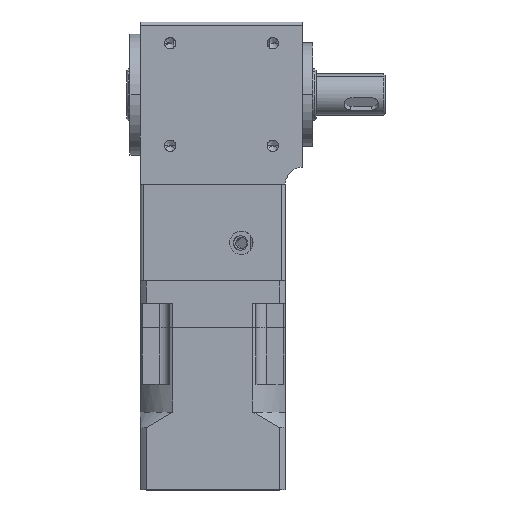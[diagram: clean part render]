
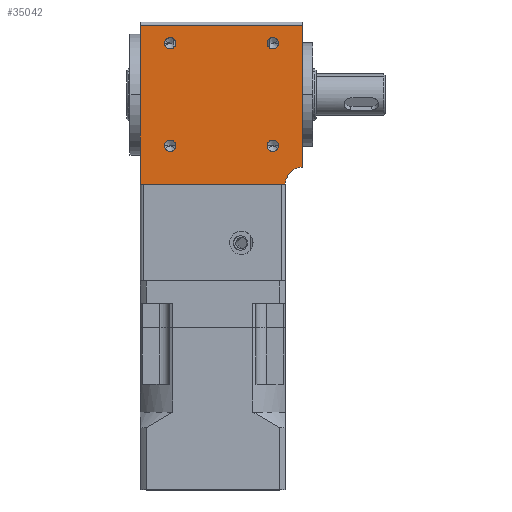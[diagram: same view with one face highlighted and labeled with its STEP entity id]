
A CAD part, top view. The second image highlights one B-rep face of the part: STEP entity #35042.
In plain terms, the highlighted planar face has unit normal (0, 0, 1).
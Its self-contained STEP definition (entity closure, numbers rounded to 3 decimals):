
#361 = EDGE_LOOP ( 'NONE', ( #29926, #30816 ) ) ;
#1298 = AXIS2_PLACEMENT_3D ( 'NONE', #14192, #33160, #16875 ) ;
#1678 = EDGE_CURVE ( 'NONE', #23293, #12936, #32965, .T. ) ;
#1953 = CARTESIAN_POINT ( 'NONE',  ( 11.651, 17.349, 21. ) ) ;
#2041 = DIRECTION ( 'NONE',  ( 0., 0., 1. ) ) ;
#2173 = DIRECTION ( 'NONE',  ( -1., 0., 0. ) ) ;
#2192 = AXIS2_PLACEMENT_3D ( 'NONE', #25916, #9663, #28671 ) ;
#2917 = ORIENTED_EDGE ( 'NONE', *, *, #21581, .F. ) ;
#3089 = VERTEX_POINT ( 'NONE', #10446 ) ;
#3150 = ORIENTED_EDGE ( 'NONE', *, *, #9135, .F. ) ;
#3172 = AXIS2_PLACEMENT_3D ( 'NONE', #24323, #8100, #27075 ) ;
#3533 = VERTEX_POINT ( 'NONE', #28079 ) ;
#4299 = VECTOR ( 'NONE', #14885, 1000. ) ;
#4657 = DIRECTION ( 'NONE',  ( 1., 0., 0. ) ) ;
#4767 = VERTEX_POINT ( 'NONE', #6992 ) ;
#4892 = LINE ( 'NONE', #33872, #12067 ) ;
#4995 = CARTESIAN_POINT ( 'NONE',  ( 50., -23.5, 21. ) ) ;
#5218 = EDGE_CURVE ( 'NONE', #6126, #14493, #15873, .T. ) ;
#5503 = VERTEX_POINT ( 'NONE', #27198 ) ;
#5556 = CIRCLE ( 'NONE', #1298, 1.65 ) ;
#5957 = ORIENTED_EDGE ( 'NONE', *, *, #8240, .F. ) ;
#6029 = VERTEX_POINT ( 'NONE', #6058 ) ;
#6058 = CARTESIAN_POINT ( 'NONE',  ( 10.001, 17.349, 21. ) ) ;
#6126 = VERTEX_POINT ( 'NONE', #22751 ) ;
#6430 = CIRCLE ( 'NONE', #29951, 1.65 ) ;
#6767 = FACE_BOUND ( 'NONE', #29595, .T. ) ;
#6992 = CARTESIAN_POINT ( 'NONE',  ( 3., -23.5, 21. ) ) ;
#7800 = EDGE_CURVE ( 'NONE', #20896, #3533, #6430, .T. ) ;
#8038 = CARTESIAN_POINT ( 'NONE',  ( 41.349, 17.349, 21. ) ) ;
#8100 = DIRECTION ( 'NONE',  ( 0., 0., 1. ) ) ;
#8129 = EDGE_CURVE ( 'NONE', #14493, #4767, #33140, .T. ) ;
#8240 = EDGE_CURVE ( 'NONE', #31089, #6029, #30612, .T. ) ;
#8332 = CARTESIAN_POINT ( 'NONE',  ( 41.349, -12.349, 21. ) ) ;
#8973 = CARTESIAN_POINT ( 'NONE',  ( 42.999, -12.349, 21. ) ) ;
#9135 = EDGE_CURVE ( 'NONE', #3533, #20896, #32636, .T. ) ;
#9663 = DIRECTION ( 'NONE',  ( 0., 0., 1. ) ) ;
#9731 = EDGE_LOOP ( 'NONE', ( #26414, #24795, #27964, #20636, #25717 ) ) ;
#9773 = VERTEX_POINT ( 'NONE', #11220 ) ;
#10446 = CARTESIAN_POINT ( 'NONE',  ( 13.301, -12.349, 21. ) ) ;
#11028 = DIRECTION ( 'NONE',  ( 1., 0., 0. ) ) ;
#11215 = DIRECTION ( 'NONE',  ( 0., 0., 1. ) ) ;
#11220 = CARTESIAN_POINT ( 'NONE',  ( 10.001, -12.349, 21. ) ) ;
#11981 = AXIS2_PLACEMENT_3D ( 'NONE', #8332, #27310, #11028 ) ;
#12067 = VECTOR ( 'NONE', #14888, 1000. ) ;
#12259 = EDGE_CURVE ( 'NONE', #6029, #31089, #23566, .T. ) ;
#12551 = DIRECTION ( 'NONE',  ( 0., 0., 1. ) ) ;
#12936 = VERTEX_POINT ( 'NONE', #31708 ) ;
#12939 = PLANE ( 'NONE',  #27670 ) ;
#13969 = FACE_BOUND ( 'NONE', #361, .T. ) ;
#14009 = AXIS2_PLACEMENT_3D ( 'NONE', #27491, #11215, #30242 ) ;
#14126 = DIRECTION ( 'NONE',  ( 0., 0., 1. ) ) ;
#14192 = CARTESIAN_POINT ( 'NONE',  ( 11.651, -12.349, 21. ) ) ;
#14282 = EDGE_LOOP ( 'NONE', ( #16573, #3150 ) ) ;
#14493 = VERTEX_POINT ( 'NONE', #23462 ) ;
#14885 = DIRECTION ( 'NONE',  ( -1., 0., 0. ) ) ;
#14888 = DIRECTION ( 'NONE',  ( -1., 0., 0. ) ) ;
#15186 = EDGE_CURVE ( 'NONE', #4767, #34309, #21703, .T. ) ;
#15873 = CIRCLE ( 'NONE', #2192, 5. ) ;
#16573 = ORIENTED_EDGE ( 'NONE', *, *, #7800, .F. ) ;
#16858 = DIRECTION ( 'NONE',  ( 0., 1., 0. ) ) ;
#16875 = DIRECTION ( 'NONE',  ( 1., 0., 0. ) ) ;
#18226 = ORIENTED_EDGE ( 'NONE', *, *, #12259, .F. ) ;
#18230 = CARTESIAN_POINT ( 'NONE',  ( 41.349, -12.349, 21. ) ) ;
#18390 = DIRECTION ( 'NONE',  ( 0., 0., -1. ) ) ;
#19331 = AXIS2_PLACEMENT_3D ( 'NONE', #8038, #12551, #23574 ) ;
#19460 = LINE ( 'NONE', #4995, #26703 ) ;
#20208 = EDGE_CURVE ( 'NONE', #3089, #9773, #33010, .T. ) ;
#20316 = FACE_OUTER_BOUND ( 'NONE', #9731, .T. ) ;
#20636 = ORIENTED_EDGE ( 'NONE', *, *, #8129, .F. ) ;
#20875 = DIRECTION ( 'NONE',  ( 0., 0., 1. ) ) ;
#20896 = VERTEX_POINT ( 'NONE', #8973 ) ;
#20961 = DIRECTION ( 'NONE',  ( 1., 0., 0. ) ) ;
#21400 = CARTESIAN_POINT ( 'NONE',  ( 39.699, 17.349, 21. ) ) ;
#21581 = EDGE_CURVE ( 'NONE', #12936, #23293, #32134, .T. ) ;
#21703 = LINE ( 'NONE', #33145, #28126 ) ;
#22751 = CARTESIAN_POINT ( 'NONE',  ( 50., -18.5, 21. ) ) ;
#23059 = EDGE_CURVE ( 'NONE', #5503, #34309, #4892, .T. ) ;
#23293 = VERTEX_POINT ( 'NONE', #21400 ) ;
#23462 = CARTESIAN_POINT ( 'NONE',  ( 45., -23.5, 21. ) ) ;
#23566 = CIRCLE ( 'NONE', #33189, 1.65 ) ;
#23574 = DIRECTION ( 'NONE',  ( 1., 0., 0. ) ) ;
#23951 = DIRECTION ( 'NONE',  ( 0., -1., 0. ) ) ;
#24323 = CARTESIAN_POINT ( 'NONE',  ( 41.349, 17.349, 21. ) ) ;
#24795 = ORIENTED_EDGE ( 'NONE', *, *, #23059, .T. ) ;
#25713 = CARTESIAN_POINT ( 'NONE',  ( 53., -23.5, 21. ) ) ;
#25717 = ORIENTED_EDGE ( 'NONE', *, *, #5218, .F. ) ;
#25870 = EDGE_LOOP ( 'NONE', ( #5957, #18226 ) ) ;
#25916 = CARTESIAN_POINT ( 'NONE',  ( 50., -23.5, 21. ) ) ;
#26414 = ORIENTED_EDGE ( 'NONE', *, *, #35070, .F. ) ;
#26461 = CARTESIAN_POINT ( 'NONE',  ( 53., -23.5, 21. ) ) ;
#26703 = VECTOR ( 'NONE', #23951, 1000. ) ;
#27075 = DIRECTION ( 'NONE',  ( 1., 0., 0. ) ) ;
#27198 = CARTESIAN_POINT ( 'NONE',  ( 50., 22.5, 21. ) ) ;
#27310 = DIRECTION ( 'NONE',  ( 0., 0., 1. ) ) ;
#27491 = CARTESIAN_POINT ( 'NONE',  ( 11.651, 17.349, 21. ) ) ;
#27556 = FACE_BOUND ( 'NONE', #14282, .T. ) ;
#27670 = AXIS2_PLACEMENT_3D ( 'NONE', #26461, #18390, #2173 ) ;
#27964 = ORIENTED_EDGE ( 'NONE', *, *, #15186, .F. ) ;
#28079 = CARTESIAN_POINT ( 'NONE',  ( 39.699, -12.349, 21. ) ) ;
#28126 = VECTOR ( 'NONE', #16858, 1000. ) ;
#28372 = AXIS2_PLACEMENT_3D ( 'NONE', #30402, #14126, #33093 ) ;
#28671 = DIRECTION ( 'NONE',  ( 1., 0., 0. ) ) ;
#29595 = EDGE_LOOP ( 'NONE', ( #2917, #34447 ) ) ;
#29926 = ORIENTED_EDGE ( 'NONE', *, *, #20208, .F. ) ;
#29951 = AXIS2_PLACEMENT_3D ( 'NONE', #18230, #2041, #20961 ) ;
#30242 = DIRECTION ( 'NONE',  ( 1., 0., 0. ) ) ;
#30402 = CARTESIAN_POINT ( 'NONE',  ( 11.651, -12.349, 21. ) ) ;
#30612 = CIRCLE ( 'NONE', #14009, 1.65 ) ;
#30816 = ORIENTED_EDGE ( 'NONE', *, *, #33419, .F. ) ;
#31089 = VERTEX_POINT ( 'NONE', #33024 ) ;
#31156 = CARTESIAN_POINT ( 'NONE',  ( 3., 22.5, 21. ) ) ;
#31708 = CARTESIAN_POINT ( 'NONE',  ( 42.999, 17.349, 21. ) ) ;
#32134 = CIRCLE ( 'NONE', #3172, 1.65 ) ;
#32636 = CIRCLE ( 'NONE', #11981, 1.65 ) ;
#32965 = CIRCLE ( 'NONE', #19331, 1.65 ) ;
#33010 = CIRCLE ( 'NONE', #28372, 1.65 ) ;
#33024 = CARTESIAN_POINT ( 'NONE',  ( 13.301, 17.349, 21. ) ) ;
#33093 = DIRECTION ( 'NONE',  ( 1., 0., 0. ) ) ;
#33140 = LINE ( 'NONE', #25713, #4299 ) ;
#33145 = CARTESIAN_POINT ( 'NONE',  ( 3., -23.5, 21. ) ) ;
#33160 = DIRECTION ( 'NONE',  ( 0., 0., 1. ) ) ;
#33189 = AXIS2_PLACEMENT_3D ( 'NONE', #1953, #20875, #4657 ) ;
#33419 = EDGE_CURVE ( 'NONE', #9773, #3089, #5556, .T. ) ;
#33872 = CARTESIAN_POINT ( 'NONE',  ( 53., 22.5, 21. ) ) ;
#34309 = VERTEX_POINT ( 'NONE', #31156 ) ;
#34447 = ORIENTED_EDGE ( 'NONE', *, *, #1678, .F. ) ;
#34757 = FACE_BOUND ( 'NONE', #25870, .T. ) ;
#35042 = ADVANCED_FACE ( 'NONE', ( #6767, #27556, #13969, #34757, #20316 ), #12939, .F. ) ;
#35070 = EDGE_CURVE ( 'NONE', #5503, #6126, #19460, .T. ) ;
